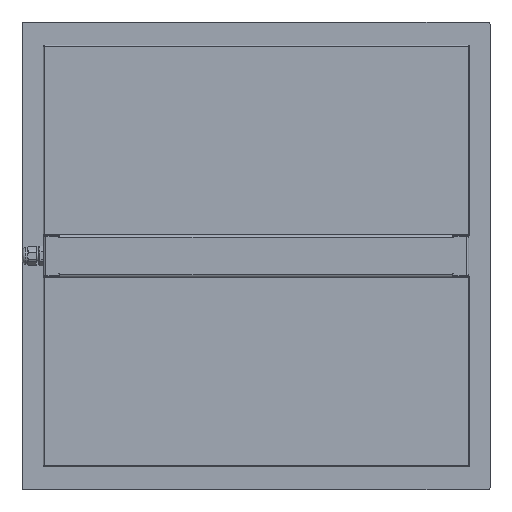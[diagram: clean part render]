
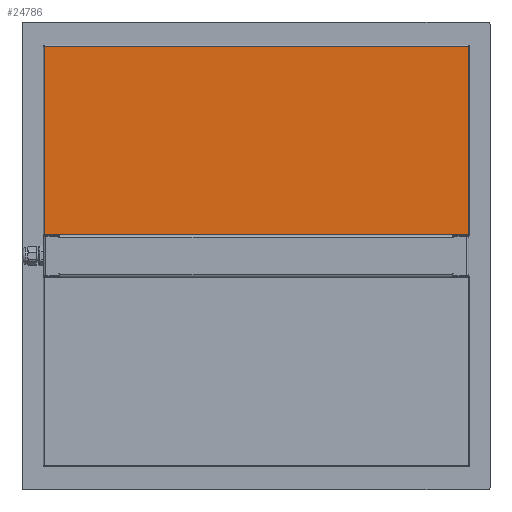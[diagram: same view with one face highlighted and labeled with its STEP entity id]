
A CAD part, top view. The second image highlights one B-rep face of the part: STEP entity #24786.
In plain terms, the highlighted planar face has unit normal (0, 0, 1).
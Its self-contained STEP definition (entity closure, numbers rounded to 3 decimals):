
#3675=FACE_OUTER_BOUND('',#5539,.T.);
#5539=EDGE_LOOP('',(#18745,#18746,#18747,#18748));
#7998=LINE('',#44203,#9644);
#8001=LINE('',#44217,#9647);
#8011=LINE('',#44254,#9657);
#8012=LINE('',#44255,#9658);
#9644=VECTOR('',#31883,10.);
#9647=VECTOR('',#31896,10.);
#9657=VECTOR('',#31924,10.);
#9658=VECTOR('',#31925,10.);
#11544=VERTEX_POINT('',#44200);
#11545=VERTEX_POINT('',#44202);
#11547=VERTEX_POINT('',#44207);
#11551=VERTEX_POINT('',#44215);
#14157=EDGE_CURVE('',#11545,#11544,#7998,.T.);
#14164=EDGE_CURVE('',#11547,#11551,#8001,.T.);
#14179=EDGE_CURVE('',#11551,#11545,#8011,.T.);
#14180=EDGE_CURVE('',#11544,#11547,#8012,.T.);
#18745=ORIENTED_EDGE('',*,*,#14179,.T.);
#18746=ORIENTED_EDGE('',*,*,#14157,.T.);
#18747=ORIENTED_EDGE('',*,*,#14180,.T.);
#18748=ORIENTED_EDGE('',*,*,#14164,.T.);
#23930=PLANE('',#27061);
#24786=ADVANCED_FACE('',(#3675),#23930,.T.);
#27061=AXIS2_PLACEMENT_3D('',#44253,#31922,#31923);
#31883=DIRECTION('',(0.,1.,0.));
#31896=DIRECTION('',(0.,-1.,0.));
#31922=DIRECTION('center_axis',(0.,0.,
1.));
#31923=DIRECTION('ref_axis',(-1.,0.,0.));
#31924=DIRECTION('',(1.,0.,0.));
#31925=DIRECTION('',(-1.,0.,0.));
#44200=CARTESIAN_POINT('',(226.7,224.2,7.));
#44202=CARTESIAN_POINT('',(226.7,23.2,7.));
#44203=CARTESIAN_POINT('',(226.7,72.95,7.));
#44207=CARTESIAN_POINT('',(-226.7,224.2,7.));
#44215=CARTESIAN_POINT('',(-226.7,23.2,7.));
#44217=CARTESIAN_POINT('',(-226.7,174.45,7.));
#44253=CARTESIAN_POINT('Origin',(0.,123.7,7.));
#44254=CARTESIAN_POINT('',(113.35,23.2,7.));
#44255=CARTESIAN_POINT('',(113.35,224.2,7.));
